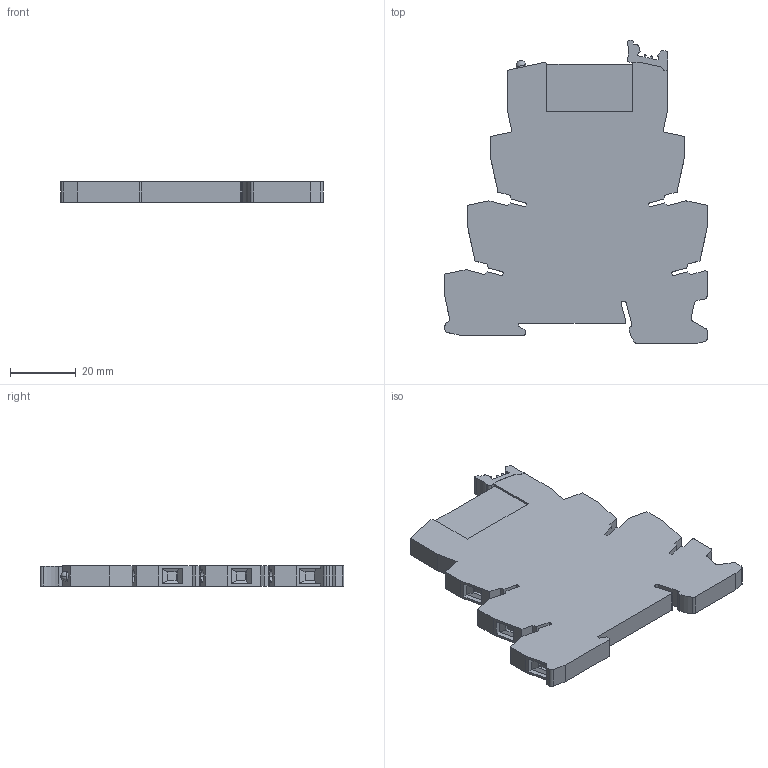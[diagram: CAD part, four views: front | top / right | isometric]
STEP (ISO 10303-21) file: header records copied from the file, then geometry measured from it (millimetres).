
FILE_DESCRIPTION(('SolidDesigner STEP Export'),'2;1');
FILE_NAME('2966317_PLC_RSC_24DC_1AU_SEN-SELECT.stp','2015-06-30T 9:31:41',(''),(''),'Creo Elements/Direct Modeling STEP processor for AP214 (Solid Model)','Creo Elements/Direct Modeling 18.1 06-May-2012 (C) Parametric Technology GmbH','');
FILE_SCHEMA(('AUTOMOTIVE_DESIGN { 1 0 10303 214 1 1 1 1 }'));
Length unit declared in the file: millimetre
Products named in the file (2): 2966317_PLC_RSC_24DC_1AU_SEN-SELECT
Assembly tree (1 placements, depth 2):
  2966317_PLC_RSC_24DC_1AU_SEN-SELECT
    2966317_PLC_RSC_24DC_1AU_SEN-SELECT
Bounding box: 80 x 92.55 x 6.2 mm (x, y, z)
Volume: 30788.1 mm3; surface area: 13930.8 mm2
Topology: 1 solids, 1 shells, 241 faces, 658 edges, 423 vertices
Faces by surface type: plane 190, cylinder 45, cone 4, sphere 2
Entity records: 9311 total; most frequent: ORIENTED_EDGE 1312, CARTESIAN_POINT 1308, DIRECTION 1184, EDGE_CURVE 656, VECTOR 534, LINE 534, VERTEX_POINT 423, AXIS2_PLACEMENT_3D 325
